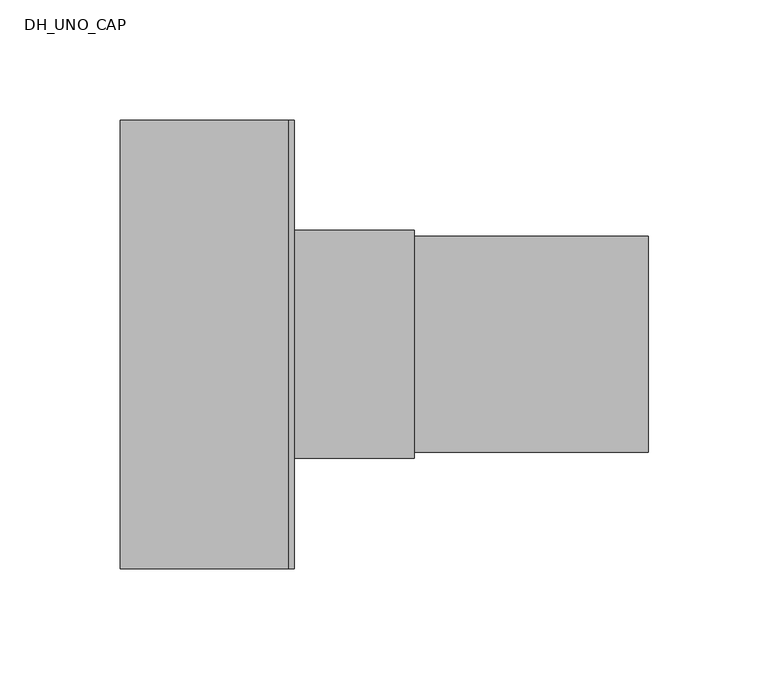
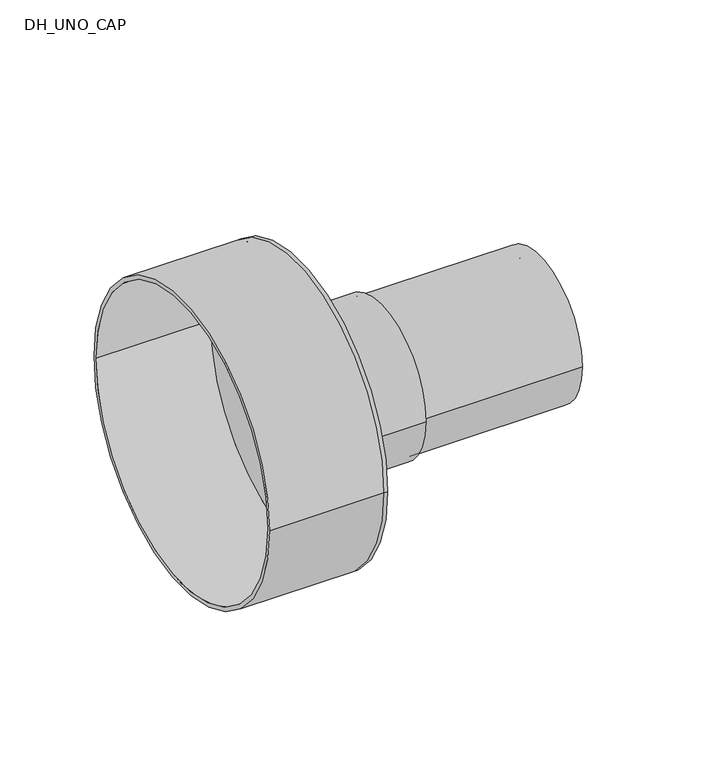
"""IFC4 building model written with IfcOpenShell, lengths in millimetres: pipe fitting geometry, DH_UNO_CAP : RAUTHERMEX UNO + 11 Heating - Rubber Cap."""

from ifc_helpers import new_model, si_unit, point, frame, origin, origin_2d, place, context, project, spatial, polyline, circle_curve, trimmed, segment, composite_curve, outline, extrude, source, transform, mapped, element, save
from ifc_brep_helpers import plane_surface, cylinder_surface, revolved_surface, advanced_brep


def dh_uno_cap_ae134bf0(model_context):
    return source(origin(), model_context, "Body", "SolidModel", [
        extrude(outline(composite_curve([segment(trimmed(circle_curve(origin_2d(), 45.0), [point((-45.0, 0.0))], [point((45.0, 0.0))], False, "CARTESIAN"), True, "CONTINUOUS"), segment(trimmed(circle_curve(origin_2d(), 45.0), [point((45.0, 0.0))], [point((-45.0, 0.0))], False, "CARTESIAN"), True, "CONTINUOUS")], self_intersect=False), holes=[composite_curve([segment(trimmed(circle_curve(origin_2d(), 36.8), [point((-36.8, 0.0))], [point((36.8, 0.0))], True, "CARTESIAN"), True, "CONTINUOUS"), segment(trimmed(circle_curve(origin_2d(), 36.8), [point((36.8, 0.0))], [point((-36.8, 0.0))], True, "CARTESIAN"), True, "CONTINUOUS")], self_intersect=False)]), frame((0.0, 0.0, 0.0), z_axis=(1.0, 0.0, 0.0), x_axis=(0.0, 1.0, 0.0)), (0.0, 0.0, 1.0), 150.0),
        advanced_brep(
        [(-70.0, -93.5, 0.0), (-70.0, 93.5, 0.0), (-70.0, -91.0, 0.0), (-70.0, 91.0, 0.0), (0.0, -91.0, 0.0), (0.0, 91.0, 0.0), (0.0, -93.5, 0.0), (0.0, 93.5, 0.0), (0.0, 45.0, 0.0), (0.0, -45.0, 0.0), (2.5, -93.5, 0.0), (2.5, 93.5, 0.0), (2.5, -45.0, 0.0), (2.5, 45.0, 0.0)],
        [
            (0, 1, circle_curve(frame((-70.0, 0.0, 0.0), z_axis=(-1.0, 0.0, 0.0), x_axis=(0.0, 1.0, 0.0)), 93.5)),
            (1, 0, circle_curve(frame((-70.0, 0.0, 0.0), z_axis=(-1.0, 0.0, 0.0), x_axis=(0.0, 1.0, 0.0)), 93.5)),
            (2, 3, circle_curve(frame((-70.0, 0.0, 0.0), z_axis=(1.0, 0.0, 0.0), x_axis=(0.0, 1.0, 0.0)), 91.0)),
            (3, 2, circle_curve(frame((-70.0, 0.0, 0.0), z_axis=(1.0, 0.0, 0.0), x_axis=(0.0, 1.0, 0.0)), 91.0)),
            (2, 4),
            (4, 5, circle_curve(frame((0.0, 0.0, 0.0), z_axis=(1.0, 0.0, 0.0), x_axis=(0.0, 1.0, 0.0)), 91.0)),
            (5, 3),
            (5, 4, circle_curve(frame((0.0, 0.0, 0.0), z_axis=(1.0, 0.0, 0.0), x_axis=(0.0, 1.0, 0.0)), 91.0)),
            (0, 6),
            (6, 7, circle_curve(frame((0.0, 0.0, 0.0), z_axis=(-1.0, 0.0, 0.0), x_axis=(0.0, 1.0, 0.0)), 93.5)),
            (7, 1),
            (7, 6, circle_curve(frame((0.0, 0.0, 0.0), z_axis=(-1.0, 0.0, 0.0), x_axis=(0.0, 1.0, 0.0)), 93.5)),
            (8, 9, circle_curve(frame((0.0, 0.0, 0.0), z_axis=(1.0, 0.0, 0.0), x_axis=(0.0, 1.0, 0.0)), 45.0)),
            (9, 8, circle_curve(frame((0.0, 0.0, 0.0), z_axis=(1.0, 0.0, 0.0), x_axis=(0.0, 1.0, 0.0)), 45.0)),
            (10, 11, circle_curve(frame((2.5, 0.0, 0.0), z_axis=(1.0, 0.0, 0.0), x_axis=(0.0, 1.0, 0.0)), 93.5)),
            (11, 10, circle_curve(frame((2.5, 0.0, 0.0), z_axis=(1.0, 0.0, 0.0), x_axis=(0.0, 1.0, 0.0)), 93.5)),
            (12, 13, circle_curve(frame((2.5, 0.0, 0.0), z_axis=(-1.0, 0.0, 0.0), x_axis=(0.0, 1.0, 0.0)), 45.0)),
            (13, 12, circle_curve(frame((2.5, 0.0, 0.0), z_axis=(-1.0, 0.0, 0.0), x_axis=(0.0, 1.0, 0.0)), 45.0)),
            (11, 7),
            (6, 10),
            (8, 13),
            (12, 9),
        ],
        [
            plane_surface(frame((-70.0, 0.0, 0.0), z_axis=(-1.0, 0.0, 0.0), x_axis=(0.0, 0.0, 1.0))),
            revolved_surface(polyline([(0.0, 91.0, 0.0), (-70.0, 91.0, 0.0)]), (-70.0, 0.0, 0.0), (1.0, 0.0, 0.0)),
            cylinder_surface(frame((-70.0, 0.0, 0.0), z_axis=(-1.0, 0.0, 0.0), x_axis=(0.0, 1.0, 0.0)), 93.5),
            plane_surface(frame((0.0, 0.0, 0.0), z_axis=(-1.0, 0.0, 0.0), x_axis=(0.0, 0.0, 1.0))),
            plane_surface(frame((2.5, 0.0, 0.0), z_axis=(1.0, 0.0, 0.0), x_axis=(0.0, 0.0, 1.0))),
            cylinder_surface(frame((0.0, 0.0, 0.0), z_axis=(-1.0, 0.0, 0.0), x_axis=(0.0, 1.0, 0.0)), 93.5),
            revolved_surface(polyline([(0.0, 45.0, 0.0), (2.5, 45.0, 0.0)]), (0.0, 0.0, 0.0), (-1.0, 0.0, 0.0)),
        ],
        [
            (0, [[1, 2], [3, 4]]),
            (1, [[-3, 5, 6, 7]]),
            (1, [[-4, -7, 8, -5]]),
            (2, [[-1, 9, 10, 11]]),
            (2, [[-2, -11, 12, -9]]),
            (3, [[-6, -8], [13, 14]]),
            (4, [[15, 16], [17, 18]]),
            (5, [[-16, 19, -10, 20]]),
            (5, [[-15, -20, -12, -19]]),
            (6, [[21, -17, 22, -13]]),
            (6, [[-21, -14, -22, -18]]),
        ],
    ),
        extrude(outline(composite_curve([segment(trimmed(circle_curve(origin_2d(), 47.5), [point((-47.5, 0.0))], [point((47.5, 0.0))], False, "CARTESIAN"), True, "CONTINUOUS"), segment(trimmed(circle_curve(origin_2d(), 47.5), [point((47.5, 0.0))], [point((-47.5, 0.0))], False, "CARTESIAN"), True, "CONTINUOUS")], self_intersect=False), holes=[composite_curve([segment(trimmed(circle_curve(origin_2d(), 45.0), [point((-45.0, 0.0))], [point((45.0, 0.0))], True, "CARTESIAN"), True, "CONTINUOUS"), segment(trimmed(circle_curve(origin_2d(), 45.0), [point((45.0, 0.0))], [point((-45.0, 0.0))], True, "CARTESIAN"), True, "CONTINUOUS")], self_intersect=False)]), frame((2.5, 0.0, 0.0), z_axis=(1.0, 0.0, 0.0), x_axis=(0.0, 1.0, 0.0)), (0.0, 0.0, 1.0), 50.0),
    ])


if __name__ == "__main__":
    model = new_model("IFC4")
    model_context = context("Model", 3, world=origin())
    ifc_project = project(units=[si_unit("LENGTHUNIT", "METRE", prefix="MILLI")], contexts=[model_context])
    site = spatial("IfcSite", under=ifc_project)
    building = spatial("IfcBuilding", under=site)
    placement = place(None, origin())
    dh_uno_cap_shape = dh_uno_cap_ae134bf0(model_context)
    element("IfcPipeFitting", 1, ObjectType="DH_UNO_CAP : RAUTHERMEX UNO + 11 Heating - Rubber Cap", at=placement, inside=building, context=model_context, shape_type="MappedRepresentation", body=[
        mapped(dh_uno_cap_shape, transform((0.0, 0.0, 0.0), x_axis=(1.0, 0.0, 0.0), y_axis=(0.0, 1.0, 0.0), z_axis=(0.0, 0.0, 1.0))),
    ])
    save(model, "model.ifc")
